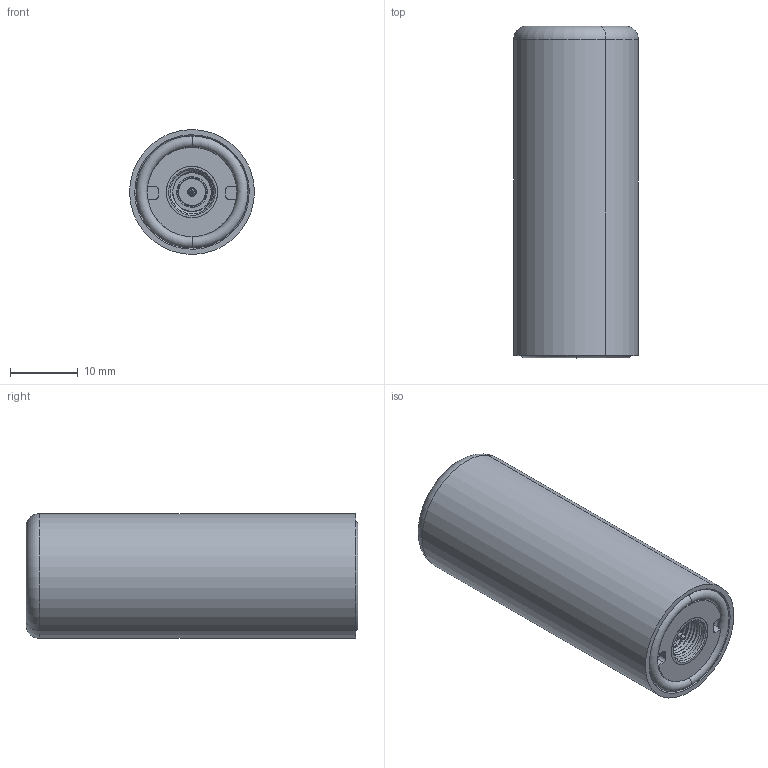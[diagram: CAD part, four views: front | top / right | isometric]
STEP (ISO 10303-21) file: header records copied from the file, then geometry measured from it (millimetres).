
FILE_DESCRIPTION (( 'STEP AP214' ), '1' );
FILE_NAME ('100-00003-02_RevB.STEP', '2021-01-05T23:05:50', ( '' ), ( '' ), 'SwSTEP 2.0', 'SolidWorks 2021', '' );
FILE_SCHEMA (( 'AUTOMOTIVE_DESIGN' ));
Length unit declared in the file: millimetre
Products named in the file (27): 312-00010-01; 174-00014-01-5_174-00014-01-5; 102-00007-05_4.90mm LG Pins; 303-00003-01_303-00003-01; 174-00014-01-6_174-00014-01-6; 375-00004-01; 174-00013-01-2; 174-00013-01-3; 174-00014-01-3_174-00014-01-3; 174-00014-01-2_174-00014-01-2; 241-00003-05_View 1; 174-00014-01-8_174-00014-01-8; 312-00058-03; 312-00055-03; 108-00004-02; 178-00001-01_4.90mm LG; 174-00013-01_174-00013-01; 174-00014-01-1_174-00014-01-1; 174-00014-01_174-00014-01; 174-00014-01-7_174-00014-01-7; 109-00008-01_109-00008-01; 174-00014-01-4_174-00014-01-4; 319-00001-01; 100-00003-02_RevB; 174-00013-01-1; 240-00004-01_240-00004-01
Assembly tree (28 placements, depth 5):
  303-00003-01_303-00003-01
  100-00003-02_RevB
    312-00055-03
      312-00055-03
      174-00014-01_174-00014-01
        174-00014-01-1_174-00014-01-1
        174-00014-01-2_174-00014-01-2
        174-00014-01-3_174-00014-01-3
        174-00014-01-4_174-00014-01-4
        174-00014-01-5_174-00014-01-5
        174-00014-01-6_174-00014-01-6
        174-00014-01-7_174-00014-01-7
        174-00014-01-8_174-00014-01-8
    108-00004-02
      109-00008-01_109-00008-01
        240-00004-01_240-00004-01
        174-00013-01_174-00013-01
          174-00013-01-1
          174-00013-01-2
          174-00013-01-3
      102-00007-05_4.90mm LG Pins
        312-00010-01
        241-00003-05_View 1
        178-00001-01_4.90mm LG  x4
    375-00004-01
    312-00058-03
    319-00001-01
Bounding box: 18.49 x 49.15 x 18.49 mm (x, y, z)
Volume: 8501.5 mm3; surface area: 14186.5 mm2
Topology: 22 solids, 22 shells, 996 faces, 2678 edges, 1749 vertices
Faces by surface type: plane 519, cylinder 346, cone 91, bspline 20, torus 20
Entity records: 34953 total; most frequent: CARTESIAN_POINT 11310, ORIENTED_EDGE 4908, DIRECTION 4553, EDGE_CURVE 2454, AXIS2_PLACEMENT_3D 1675, VERTEX_POINT 1605, LINE 1203, VECTOR 1203
